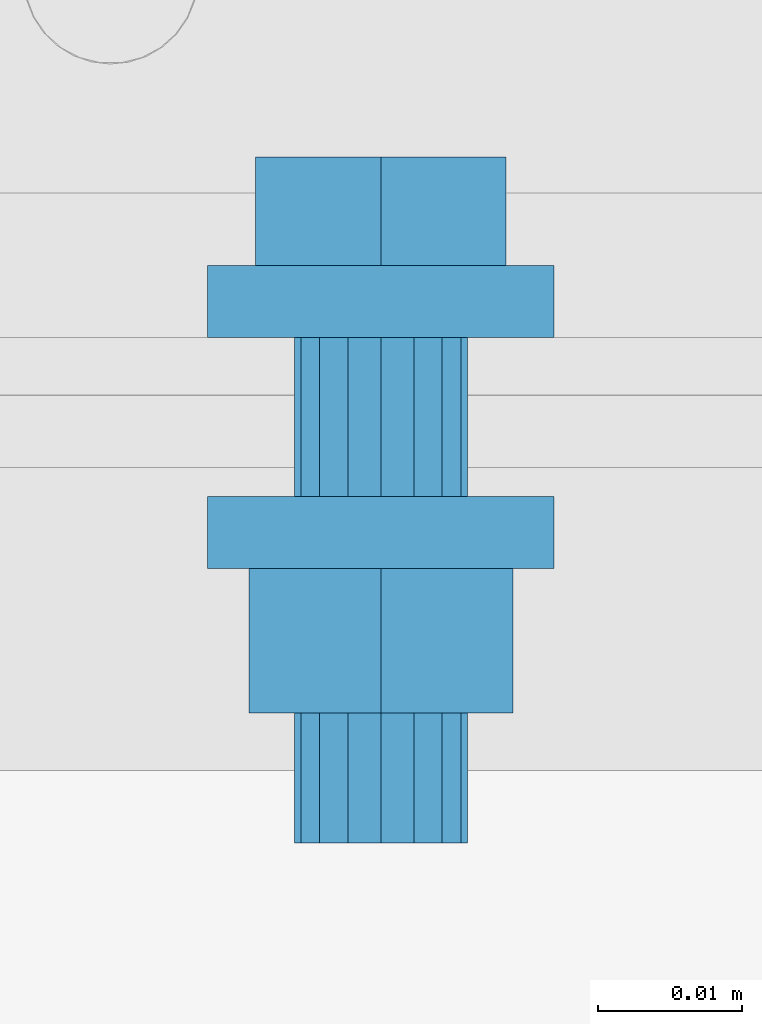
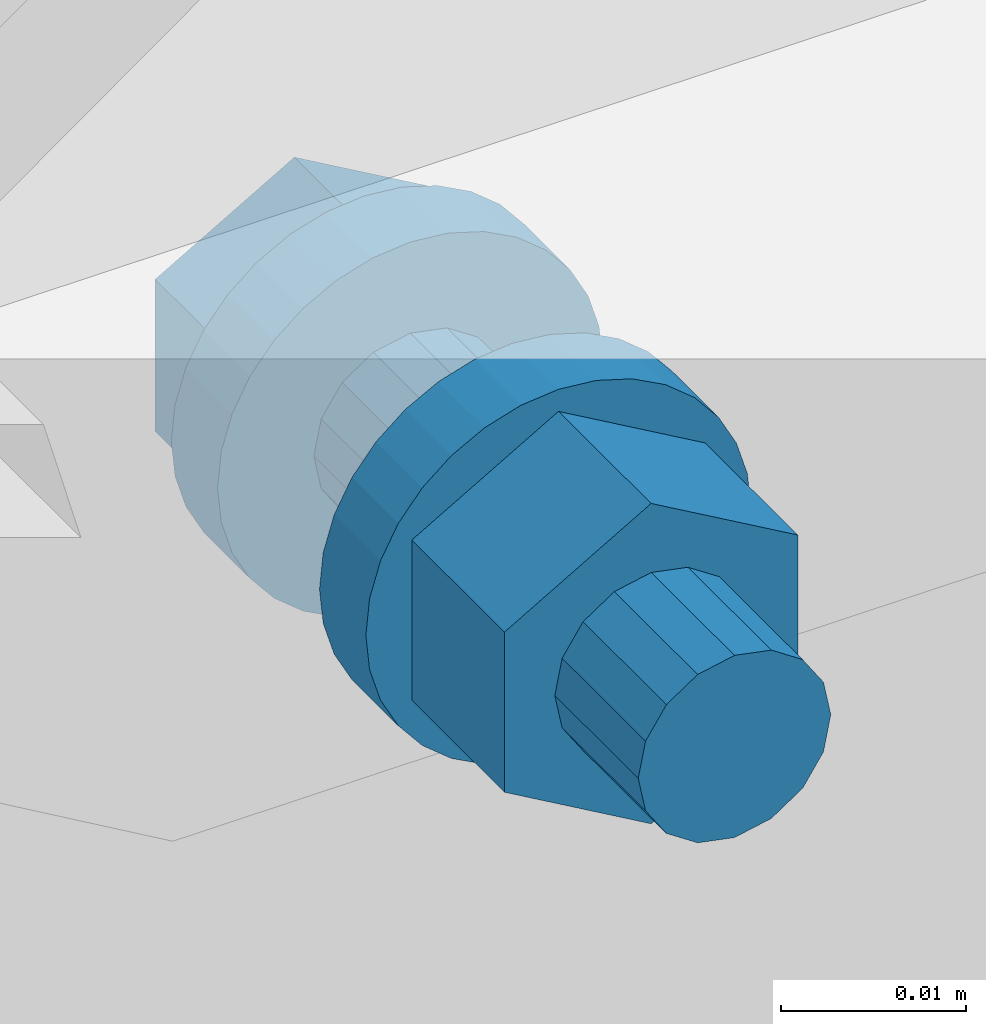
# One storey, part 77 of 116: 1 mechanical fastener.
"""IFC2X3 building model written with IfcOpenShell, lengths in millimetres."""

import ifcopenshell
import ifcopenshell.guid

model = None  # the IFC model being written
_history = None  # IfcOwnerHistory: only IFC2X3 demands one
_inside = {}  # id of a spatial element -> (the spatial element, [elements in it])
_under = {}  # id of a project, library or spatial element -> (it, [spatial elements below it])
_declared = {}  # id of a project -> (the project, [libraries it declares])
_typed = {}  # id of a type object -> (the type object, [elements of that type])
_made_of = {}  # id of a material, layer set ... -> (it, [elements and type objects made of it])


def new_model(schema):
    """Start an empty IFC model of exactly this schema.

    Asked for "IFC4X3", IfcOpenShell would pick the latest addendum, in which some entities
    have other attributes; the version numbers below select the first issue.
    IFC2X3 requires an IfcOwnerHistory on every rooted entity: one is made here for all.
    """
    global model, _history
    if schema == "IFC4X3":
        model = ifcopenshell.file(schema_version=(4, 3, 0, 0))
    else:
        model = ifcopenshell.file(schema=schema)
    _inside.clear()
    _under.clear()
    _declared.clear()
    _typed.clear()
    _made_of.clear()
    _history = None
    if model.schema == "IFC2X3":
        org = make("IfcOrganization", Name="unknown")
        user = make(
            "IfcPersonAndOrganization",
            ThePerson=make("IfcPerson", FamilyName="unknown"),
            TheOrganization=org,
        )
        app = make(
            "IfcApplication",
            ApplicationDeveloper=org,
            Version="unknown",
            ApplicationFullName="unknown",
            ApplicationIdentifier="unknown",
        )
        _history = make(
            "IfcOwnerHistory",
            OwningUser=user,
            OwningApplication=app,
            ChangeAction="ADDED",
            CreationDate=0,
        )
    return model


def make(cls, **values):
    """One entity of the class cls with the attributes given. An attribute that is None is left unset."""
    return model.create_entity(
        cls, **{name: value for name, value in values.items() if value is not None}
    )


def entity(cls, *values):
    """Any entity or typed value of the class cls, its attributes in the order of the schema. None: left unset."""
    e = model.create_entity(cls)
    for i, value in enumerate(values):
        if value is not None:
            e[i] = value
    return e


def rooted(cls, **values):
    """An entity with a GlobalId (a new one), such as an element, a storey or a relation."""
    return make(cls, GlobalId=ifcopenshell.guid.new(), OwnerHistory=_history, **values)


def si_unit(unit_type, name, prefix=None):
    """IfcSIUnit, for example si_unit("LENGTHUNIT", "METRE", prefix="MILLI")."""
    return make("IfcSIUnit", UnitType=unit_type, Prefix=prefix, Name=name)


def converted_unit(unit_type, name, factor, base, dimensions=None, offset=None):
    """IfcConversionBasedUnit, such as the inch: factor (a typed value) times the base unit."""
    return make(
        "IfcConversionBasedUnit"
        if offset is None
        else "IfcConversionBasedUnitWithOffset",
        ConversionOffset=offset,
        Dimensions=None
        if dimensions is None
        else entity("IfcDimensionalExponents", *dimensions),
        UnitType=unit_type,
        Name=name,
        ConversionFactor=make(
            "IfcMeasureWithUnit", ValueComponent=factor, UnitComponent=base
        ),
    )


def assignment(units):
    """IfcUnitAssignment: the units of a project."""
    return None if units is None else make("IfcUnitAssignment", Units=units)


def point(xyz):
    """IfcCartesianPoint."""
    return None if xyz is None else make("IfcCartesianPoint", Coordinates=xyz)


def direction(xyz):
    """IfcDirection."""
    return None if xyz is None else make("IfcDirection", DirectionRatios=xyz)


def frame(location, z_axis=None, x_axis=None):
    """IfcAxis2Placement3D, a coordinate frame: its origin and axes. An axis left out is left unset."""
    return make(
        "IfcAxis2Placement3D",
        Location=point(location),
        Axis=direction(z_axis),
        RefDirection=direction(x_axis),
    )


def origin_with_axes():
    """The frame at (0, 0, 0) with the z axis (0, 0, 1) and the x axis (1, 0, 0) written out."""
    return frame((0.0, 0.0, 0.0), z_axis=(0.0, 0.0, 1.0), x_axis=(1.0, 0.0, 0.0))


def place(relative_to, where):
    """IfcLocalPlacement: puts the frame where relative to a parent placement (None: the world)."""
    return make(
        "IfcLocalPlacement", PlacementRelTo=relative_to, RelativePlacement=where
    )


def context(
    kind, dimensions, precision=None, world=None, true_north=None, identifier=None
):
    """IfcGeometricRepresentationContext, for example the 3D "Model" context."""
    return make(
        "IfcGeometricRepresentationContext",
        ContextIdentifier=identifier,
        ContextType=kind,
        CoordinateSpaceDimension=dimensions,
        Precision=precision,
        WorldCoordinateSystem=world,
        TrueNorth=true_north,
    )


def project(units=None, contexts=None):
    """IfcProject with its units and contexts."""
    return rooted(
        "IfcProject",
        Name="project",
        RepresentationContexts=contexts,
        UnitsInContext=assignment(units),
    )


def spatial(cls, under=None, at=None, **own):
    """A site, building, storey or space (cls), placed at a placement, below another one or the project."""
    s = rooted(cls, ObjectPlacement=at, **own)
    if under is not None:
        _under.setdefault(under.id(), (under, []))[1].append(s)
    return s


def faces_of(points, faces, orient=None, outer=None):
    """IfcFace entities. A face is a list of loops; a loop is a list of indices into points, from 0.

    orient and outer hold one flag for each loop. By default every Orientation is true, the
    first loop of a face is its IfcFaceOuterBound and the others are IfcFaceBound.
    """
    made = []
    for i, loops in enumerate(faces):
        bounds = []
        for j, loop in enumerate(loops):
            is_outer = j == 0 if outer is None else outer[i][j]
            bounds.append(
                make(
                    "IfcFaceOuterBound" if is_outer else "IfcFaceBound",
                    Bound=make("IfcPolyLoop", Polygon=[points[k] for k in loop]),
                    Orientation=True if orient is None else orient[i][j],
                )
            )
        made.append(make("IfcFace", Bounds=bounds))
    return made


def faceted_brep(points, faces, orient=None, outer=None, voids=None):
    """IfcFacetedBrep: a solid bounded by flat faces; with voids (closed shells), ...WithVoids."""
    shared = [point(p) for p in points]
    hull = make("IfcClosedShell", CfsFaces=faces_of(shared, faces, orient, outer))
    if voids is None:
        return make("IfcFacetedBrep", Outer=hull)
    return make(
        "IfcFacetedBrepWithVoids",
        Outer=hull,
        Voids=[
            make(cls, CfsFaces=faces_of(shared, fs, o, b)) for cls, fs, o, b in voids
        ],
    )


def shape(context_of_items, identifier, shape_type, items):
    """IfcShapeRepresentation: the items that make up one representation, for example the "Body"."""
    return make(
        "IfcShapeRepresentation",
        ContextOfItems=context_of_items,
        RepresentationIdentifier=identifier,
        RepresentationType=shape_type,
        Items=items,
    )


def made_of(thing, what):
    """Note that an element or type object is made of a material, layer set ...; save() writes the relation."""
    if what is not None:
        _made_of.setdefault(what.id(), (what, []))[1].append(thing)
    return thing


def element(
    cls,
    number,
    at=None,
    inside=None,
    cuts=None,
    type_object=None,
    material=None,
    context=None,
    identifier="Body",
    shape_type=None,
    held_by="IfcProductDefinitionShape",
    body=None,
    shapes=None,
    **own,
):
    """One element of the class cls, such as IfcWall. Its Tag is "e" and its number.

    at: its placement. inside: the storey or other place that contains it. cuts: it is an
    opening in that element (IfcRelVoidsElement). A single representation is given by context,
    identifier, shape_type and body (its items); several are given by shapes. held_by: the class
    of the entity that holds the representations. save() writes the other relations.
    """
    e = rooted(cls, Tag="e%d" % number, ObjectPlacement=at, **own)
    if body is not None:
        shapes = [shape(context, identifier, shape_type, body)]
    if shapes is not None:
        e.Representation = make(held_by, Representations=shapes)
    if inside is not None:
        _inside.setdefault(inside.id(), (inside, []))[1].append(e)
    if cuts is not None:
        rooted(
            "IfcRelVoidsElement", RelatingBuildingElement=cuts, RelatedOpeningElement=e
        )
    if type_object is not None:
        _typed.setdefault(type_object.id(), (type_object, []))[1].append(e)
    return made_of(e, material)


def aggregate(whole, parts):
    """IfcRelAggregates: a whole, such as a stair, and the parts it consists of."""
    return rooted("IfcRelAggregates", RelatingObject=whole, RelatedObjects=parts)


def save(model, path):
    """Write the relations noted so far, then the file.

    IfcRelAggregates (storeys below a building ...), IfcRelContainedInSpatialStructure (elements
    in a storey), IfcRelDefinesByType, IfcRelAssociatesMaterial and IfcRelDeclares: one each for
    every whole, place, type object, material and project.
    """
    for whole, parts in _under.values():
        aggregate(whole, parts)
    for where, things in _inside.values():
        rooted(
            "IfcRelContainedInSpatialStructure",
            RelatedElements=things,
            RelatingStructure=where,
        )
    for kind, things in _typed.values():
        rooted("IfcRelDefinesByType", RelatedObjects=things, RelatingType=kind)
    for what, things in _made_of.values():
        rooted("IfcRelAssociatesMaterial", RelatedObjects=things, RelatingMaterial=what)
    for by, libraries in _declared.values():
        rooted("IfcRelDeclares", RelatingContext=by, RelatedDefinitions=libraries)
    model.write(path)


model = new_model("IFC2X3")

# Units and contexts
model_context = context("Model", 3, precision=1e-09, world=origin_with_axes())
ifc_project = project(units=[si_unit("LENGTHUNIT", "METRE", prefix="MILLI"), si_unit("AREAUNIT", "SQUARE_METRE"), si_unit("VOLUMEUNIT", "CUBIC_METRE"), converted_unit("PLANEANGLEUNIT", "DEGREE", entity("IfcPlaneAngleMeasure", 0.01745329), si_unit("PLANEANGLEUNIT", "RADIAN"), dimensions=[0, 0, 0, 0, 0, 0, 0])], contexts=[model_context])

# Site, building, storey
site_placement = place(None, origin_with_axes())
site = spatial("IfcSite", under=ifc_project, at=site_placement, Name="Site", CompositionType="ELEMENT")
building_placement = place(site_placement, origin_with_axes())
building = spatial("IfcBuilding", under=site, at=building_placement, Name="Struktur 1", CompositionType="ELEMENT")
storey_placement = place(building_placement, origin_with_axes())
storey = spatial("IfcBuildingStorey", under=building, at=storey_placement, Name="Default Storey", CompositionType="ELEMENT", Elevation=0.0)

# Mechanical fastener
mechanical_fastener_placement = place(None, origin_with_axes())
element("IfcMechanicalFastener", 1, at=mechanical_fastener_placement, inside=storey, ObjectType="-", NominalDiameter=12.0, NominalLength=40.0, context=model_context, shape_type="Brep", body=[
    faceted_brep([(60105.049134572, 10430.358883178, -1153.0), (60105.049134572, 10432.858883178, -1153.0), (60105.279711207, 10432.858883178, -1155.341083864), (60105.279711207, 10430.358883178, -1155.341083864), (60105.962580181, 10432.858883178, -1157.592201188), (60105.962580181, 10430.358883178, -1157.592201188), (60107.071499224, 10432.858883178, -1159.666842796), (60107.071499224, 10430.358883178, -1159.666842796), (60108.563853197, 10432.858883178, -1161.485281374), (60108.563853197, 10430.358883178, -1161.485281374), (60110.382291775, 10432.858883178, -1162.977635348), (60110.382291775, 10430.358883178, -1162.977635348), (60112.456933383, 10432.858883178, -1164.08655439), (60112.456933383, 10430.358883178, -1164.08655439), (60114.708050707, 10432.858883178, -1164.769423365), (60114.708050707, 10430.358883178, -1164.769423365), (60117.049134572, 10432.858883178, -1165.0), (60117.049134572, 10430.358883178, -1165.0), (60119.390218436, 10432.858883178, -1164.769423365), (60119.390218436, 10430.358883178, -1164.769423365), (60121.64133576, 10432.858883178, -1164.08655439), (60121.64133576, 10430.358883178, -1164.08655439), (60123.715977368, 10432.858883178, -1162.977635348), (60123.715977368, 10430.358883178, -1162.977635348), (60125.534415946, 10432.858883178, -1161.485281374), (60125.534415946, 10430.358883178, -1161.485281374), (60127.026769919, 10432.858883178, -1159.666842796), (60127.026769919, 10430.358883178, -1159.666842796), (60128.135688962, 10432.858883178, -1157.592201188), (60128.135688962, 10430.358883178, -1157.592201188), (60128.818557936, 10432.858883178, -1155.341083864), (60128.818557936, 10430.358883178, -1155.341083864), (60129.049134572, 10432.858883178, -1153.0), (60129.049134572, 10430.358883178, -1153.0), (60128.818557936, 10432.858883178, -1150.658916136), (60128.818557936, 10430.358883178, -1150.658916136), (60128.135688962, 10432.858883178, -1148.407798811), (60128.135688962, 10430.358883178, -1148.407798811), (60127.026769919, 10432.858883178, -1146.333157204), (60127.026769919, 10430.358883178, -1146.333157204), (60125.534415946, 10432.858883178, -1144.514718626), (60125.534415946, 10430.358883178, -1144.514718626), (60123.715977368, 10432.858883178, -1143.022364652), (60123.715977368, 10430.358883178, -1143.022364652), (60121.64133576, 10432.858883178, -1141.91344561), (60121.64133576, 10430.358883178, -1141.91344561), (60119.390218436, 10432.858883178, -1141.230576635), (60119.390218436, 10430.358883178, -1141.230576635), (60117.049134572, 10432.858883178, -1141.0), (60117.049134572, 10430.358883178, -1141.0), (60114.708050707, 10432.858883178, -1141.230576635), (60114.708050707, 10430.358883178, -1141.230576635), (60112.456933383, 10432.858883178, -1141.91344561), (60112.456933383, 10430.358883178, -1141.91344561), (60110.382291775, 10432.858883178, -1143.022364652), (60110.382291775, 10430.358883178, -1143.022364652), (60108.563853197, 10432.858883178, -1144.514718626), (60108.563853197, 10430.358883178, -1144.514718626), (60107.071499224, 10432.858883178, -1146.333157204), (60107.071499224, 10430.358883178, -1146.333157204), (60105.962580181, 10432.858883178, -1148.407798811), (60105.962580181, 10430.358883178, -1148.407798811), (60105.279711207, 10432.858883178, -1150.658916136), (60105.279711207, 10430.358883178, -1150.658916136)], [[[0, 1, 2, 3]], [[3, 2, 4, 5]], [[5, 4, 6, 7]], [[7, 6, 8, 9]], [[9, 8, 10, 11]], [[11, 10, 12, 13]], [[13, 12, 14, 15]], [[15, 14, 16, 17]], [[17, 16, 18, 19]], [[19, 18, 20, 21]], [[21, 20, 22, 23]], [[23, 22, 24, 25]], [[25, 24, 26, 27]], [[27, 26, 28, 29]], [[29, 28, 30, 31]], [[31, 30, 32, 33]], [[33, 32, 34, 35]], [[35, 34, 36, 37]], [[37, 36, 38, 39]], [[39, 38, 40, 41]], [[41, 40, 42, 43]], [[43, 42, 44, 45]], [[45, 44, 46, 47]], [[47, 46, 48, 49]], [[49, 48, 50, 51]], [[51, 50, 52, 53]], [[53, 52, 54, 55]], [[55, 54, 56, 57]], [[57, 56, 58, 59]], [[59, 58, 60, 61]], [[61, 60, 62, 63]], [[63, 62, 1, 0]], [[2, 1, 62, 60, 58, 56, 54, 52, 50, 48, 46, 44, 42, 40, 38, 36, 34, 32, 30, 28, 26, 24, 22, 20, 18, 16, 14, 12, 10, 8, 6, 4]], [[63, 0, 3, 5, 7, 9, 11, 13, 15, 17, 19, 21, 23, 25, 27, 29, 31, 33, 35, 37, 39, 41, 43, 45, 47, 49, 51, 53, 55, 57, 59, 61]]]),
    faceted_brep([(60105.049134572, 10432.858883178, -1153.0), (60105.049134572, 10435.358883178, -1153.0), (60105.279711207, 10435.358883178, -1155.341083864), (60105.279711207, 10432.858883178, -1155.341083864), (60105.962580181, 10435.358883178, -1157.592201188), (60105.962580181, 10432.858883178, -1157.592201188), (60107.071499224, 10435.358883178, -1159.666842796), (60107.071499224, 10432.858883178, -1159.666842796), (60108.563853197, 10435.358883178, -1161.485281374), (60108.563853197, 10432.858883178, -1161.485281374), (60110.382291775, 10435.358883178, -1162.977635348), (60110.382291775, 10432.858883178, -1162.977635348), (60112.456933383, 10435.358883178, -1164.08655439), (60112.456933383, 10432.858883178, -1164.08655439), (60114.708050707, 10435.358883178, -1164.769423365), (60114.708050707, 10432.858883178, -1164.769423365), (60117.049134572, 10435.358883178, -1165.0), (60117.049134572, 10432.858883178, -1165.0), (60119.390218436, 10435.358883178, -1164.769423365), (60119.390218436, 10432.858883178, -1164.769423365), (60121.64133576, 10435.358883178, -1164.08655439), (60121.64133576, 10432.858883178, -1164.08655439), (60123.715977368, 10435.358883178, -1162.977635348), (60123.715977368, 10432.858883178, -1162.977635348), (60125.534415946, 10435.358883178, -1161.485281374), (60125.534415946, 10432.858883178, -1161.485281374), (60127.026769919, 10435.358883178, -1159.666842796), (60127.026769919, 10432.858883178, -1159.666842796), (60128.135688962, 10435.358883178, -1157.592201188), (60128.135688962, 10432.858883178, -1157.592201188), (60128.818557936, 10435.358883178, -1155.341083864), (60128.818557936, 10432.858883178, -1155.341083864), (60129.049134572, 10435.358883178, -1153.0), (60129.049134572, 10432.858883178, -1153.0), (60128.818557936, 10435.358883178, -1150.658916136), (60128.818557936, 10432.858883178, -1150.658916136), (60128.135688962, 10435.358883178, -1148.407798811), (60128.135688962, 10432.858883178, -1148.407798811), (60127.026769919, 10435.358883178, -1146.333157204), (60127.026769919, 10432.858883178, -1146.333157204), (60125.534415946, 10435.358883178, -1144.514718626), (60125.534415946, 10432.858883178, -1144.514718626), (60123.715977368, 10435.358883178, -1143.022364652), (60123.715977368, 10432.858883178, -1143.022364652), (60121.64133576, 10435.358883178, -1141.91344561), (60121.64133576, 10432.858883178, -1141.91344561), (60119.390218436, 10435.358883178, -1141.230576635), (60119.390218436, 10432.858883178, -1141.230576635), (60117.049134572, 10435.358883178, -1141.0), (60117.049134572, 10432.858883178, -1141.0), (60114.708050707, 10435.358883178, -1141.230576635), (60114.708050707, 10432.858883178, -1141.230576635), (60112.456933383, 10435.358883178, -1141.91344561), (60112.456933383, 10432.858883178, -1141.91344561), (60110.382291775, 10435.358883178, -1143.022364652), (60110.382291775, 10432.858883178, -1143.022364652), (60108.563853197, 10435.358883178, -1144.514718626), (60108.563853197, 10432.858883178, -1144.514718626), (60107.071499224, 10435.358883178, -1146.333157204), (60107.071499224, 10432.858883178, -1146.333157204), (60105.962580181, 10435.358883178, -1148.407798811), (60105.962580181, 10432.858883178, -1148.407798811), (60105.279711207, 10435.358883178, -1150.658916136), (60105.279711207, 10432.858883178, -1150.658916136)], [[[0, 1, 2, 3]], [[3, 2, 4, 5]], [[5, 4, 6, 7]], [[7, 6, 8, 9]], [[9, 8, 10, 11]], [[11, 10, 12, 13]], [[13, 12, 14, 15]], [[15, 14, 16, 17]], [[17, 16, 18, 19]], [[19, 18, 20, 21]], [[21, 20, 22, 23]], [[23, 22, 24, 25]], [[25, 24, 26, 27]], [[27, 26, 28, 29]], [[29, 28, 30, 31]], [[31, 30, 32, 33]], [[33, 32, 34, 35]], [[35, 34, 36, 37]], [[37, 36, 38, 39]], [[39, 38, 40, 41]], [[41, 40, 42, 43]], [[43, 42, 44, 45]], [[45, 44, 46, 47]], [[47, 46, 48, 49]], [[49, 48, 50, 51]], [[51, 50, 52, 53]], [[53, 52, 54, 55]], [[55, 54, 56, 57]], [[57, 56, 58, 59]], [[59, 58, 60, 61]], [[61, 60, 62, 63]], [[63, 62, 1, 0]], [[2, 1, 62, 60, 58, 56, 54, 52, 50, 48, 46, 44, 42, 40, 38, 36, 34, 32, 30, 28, 26, 24, 22, 20, 18, 16, 14, 12, 10, 8, 6, 4]], [[63, 0, 3, 5, 7, 9, 11, 13, 15, 17, 19, 21, 23, 25, 27, 29, 31, 33, 35, 37, 39, 41, 43, 45, 47, 49, 51, 53, 55, 57, 59, 61]]]),
    faceted_brep([(60125.722378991, 10442.858883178, -1158.0075), (60125.722378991, 10435.358883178, -1158.0075), (60117.049134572, 10435.358883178, -1163.015), (60117.049134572, 10442.858883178, -1163.015), (60108.375890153, 10435.358883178, -1158.0075), (60108.375890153, 10442.858883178, -1158.0075), (60108.375890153, 10435.358883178, -1147.9925), (60108.375890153, 10442.858883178, -1147.9925), (60117.049134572, 10435.358883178, -1142.985), (60117.049134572, 10442.858883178, -1142.985), (60125.722378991, 10435.358883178, -1147.9925), (60125.722378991, 10442.858883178, -1147.9925)], [[[0, 1, 2, 3]], [[3, 2, 4, 5]], [[5, 4, 6, 7]], [[7, 6, 8, 9]], [[9, 8, 10, 11]], [[11, 10, 1, 0]], [[3, 5, 7, 9, 11, 0]], [[2, 1, 10, 8, 6, 4]]]),
    faceted_brep([(60111.049134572, 10419.358883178, -1153.0), (60111.049134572, 10430.358883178, -1153.0), (60111.505857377, 10430.358883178, -1155.296100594), (60111.505857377, 10419.358883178, -1155.296100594), (60112.806493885, 10430.358883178, -1157.242640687), (60112.806493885, 10419.358883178, -1157.242640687), (60114.753033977, 10430.358883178, -1158.543277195), (60114.753033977, 10419.358883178, -1158.543277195), (60117.049134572, 10430.358883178, -1159.0), (60117.049134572, 10419.358883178, -1159.0), (60119.345235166, 10430.358883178, -1158.543277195), (60119.345235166, 10419.358883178, -1158.543277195), (60121.291775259, 10430.358883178, -1157.242640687), (60121.291775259, 10419.358883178, -1157.242640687), (60122.592411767, 10430.358883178, -1155.296100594), (60122.592411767, 10419.358883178, -1155.296100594), (60123.049134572, 10430.358883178, -1153.0), (60123.049134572, 10419.358883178, -1153.0), (60122.592411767, 10430.358883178, -1150.703899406), (60122.592411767, 10419.358883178, -1150.703899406), (60121.291775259, 10430.358883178, -1148.757359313), (60121.291775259, 10419.358883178, -1148.757359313), (60119.345235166, 10430.358883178, -1147.456722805), (60119.345235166, 10419.358883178, -1147.456722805), (60117.049134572, 10430.358883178, -1147.0), (60117.049134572, 10419.358883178, -1147.0), (60114.753033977, 10430.358883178, -1147.456722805), (60114.753033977, 10419.358883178, -1147.456722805), (60112.806493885, 10430.358883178, -1148.757359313), (60112.806493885, 10419.358883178, -1148.757359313), (60111.505857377, 10430.358883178, -1150.703899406), (60111.505857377, 10419.358883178, -1150.703899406)], [[[0, 1, 2, 3]], [[3, 2, 4, 5]], [[5, 4, 6, 7]], [[7, 6, 8, 9]], [[9, 8, 10, 11]], [[11, 10, 12, 13]], [[13, 12, 14, 15]], [[15, 14, 16, 17]], [[17, 16, 18, 19]], [[19, 18, 20, 21]], [[21, 20, 22, 23]], [[23, 22, 24, 25]], [[25, 24, 26, 27]], [[27, 26, 28, 29]], [[29, 28, 30, 31]], [[31, 30, 1, 0]], [[2, 1, 30, 28, 26, 24, 22, 20, 18, 16, 14, 12, 10, 8, 6, 4]], [[31, 0, 3, 5, 7, 9, 11, 13, 15, 17, 19, 21, 23, 25, 27, 29]]]),
    faceted_brep([(60105.049134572, 10416.858883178, -1153.0), (60105.049134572, 10419.358883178, -1153.0), (60105.279711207, 10419.358883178, -1155.341083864), (60105.279711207, 10416.858883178, -1155.341083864), (60105.962580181, 10419.358883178, -1157.592201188), (60105.962580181, 10416.858883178, -1157.592201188), (60107.071499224, 10419.358883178, -1159.666842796), (60107.071499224, 10416.858883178, -1159.666842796), (60108.563853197, 10419.358883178, -1161.485281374), (60108.563853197, 10416.858883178, -1161.485281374), (60110.382291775, 10419.358883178, -1162.977635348), (60110.382291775, 10416.858883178, -1162.977635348), (60112.456933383, 10419.358883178, -1164.08655439), (60112.456933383, 10416.858883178, -1164.08655439), (60114.708050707, 10419.358883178, -1164.769423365), (60114.708050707, 10416.858883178, -1164.769423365), (60117.049134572, 10419.358883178, -1165.0), (60117.049134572, 10416.858883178, -1165.0), (60119.390218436, 10419.358883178, -1164.769423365), (60119.390218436, 10416.858883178, -1164.769423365), (60121.64133576, 10419.358883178, -1164.08655439), (60121.64133576, 10416.858883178, -1164.08655439), (60123.715977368, 10419.358883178, -1162.977635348), (60123.715977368, 10416.858883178, -1162.977635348), (60125.534415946, 10419.358883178, -1161.485281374), (60125.534415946, 10416.858883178, -1161.485281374), (60127.026769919, 10419.358883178, -1159.666842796), (60127.026769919, 10416.858883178, -1159.666842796), (60128.135688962, 10419.358883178, -1157.592201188), (60128.135688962, 10416.858883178, -1157.592201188), (60128.818557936, 10419.358883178, -1155.341083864), (60128.818557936, 10416.858883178, -1155.341083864), (60129.049134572, 10419.358883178, -1153.0), (60129.049134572, 10416.858883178, -1153.0), (60128.818557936, 10419.358883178, -1150.658916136), (60128.818557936, 10416.858883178, -1150.658916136), (60128.135688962, 10419.358883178, -1148.407798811), (60128.135688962, 10416.858883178, -1148.407798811), (60127.026769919, 10419.358883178, -1146.333157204), (60127.026769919, 10416.858883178, -1146.333157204), (60125.534415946, 10419.358883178, -1144.514718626), (60125.534415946, 10416.858883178, -1144.514718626), (60123.715977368, 10419.358883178, -1143.022364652), (60123.715977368, 10416.858883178, -1143.022364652), (60121.64133576, 10419.358883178, -1141.91344561), (60121.64133576, 10416.858883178, -1141.91344561), (60119.390218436, 10419.358883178, -1141.230576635), (60119.390218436, 10416.858883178, -1141.230576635), (60117.049134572, 10419.358883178, -1141.0), (60117.049134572, 10416.858883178, -1141.0), (60114.708050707, 10419.358883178, -1141.230576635), (60114.708050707, 10416.858883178, -1141.230576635), (60112.456933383, 10419.358883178, -1141.91344561), (60112.456933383, 10416.858883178, -1141.91344561), (60110.382291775, 10419.358883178, -1143.022364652), (60110.382291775, 10416.858883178, -1143.022364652), (60108.563853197, 10419.358883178, -1144.514718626), (60108.563853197, 10416.858883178, -1144.514718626), (60107.071499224, 10419.358883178, -1146.333157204), (60107.071499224, 10416.858883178, -1146.333157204), (60105.962580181, 10419.358883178, -1148.407798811), (60105.962580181, 10416.858883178, -1148.407798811), (60105.279711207, 10419.358883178, -1150.658916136), (60105.279711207, 10416.858883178, -1150.658916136)], [[[0, 1, 2, 3]], [[3, 2, 4, 5]], [[5, 4, 6, 7]], [[7, 6, 8, 9]], [[9, 8, 10, 11]], [[11, 10, 12, 13]], [[13, 12, 14, 15]], [[15, 14, 16, 17]], [[17, 16, 18, 19]], [[19, 18, 20, 21]], [[21, 20, 22, 23]], [[23, 22, 24, 25]], [[25, 24, 26, 27]], [[27, 26, 28, 29]], [[29, 28, 30, 31]], [[31, 30, 32, 33]], [[33, 32, 34, 35]], [[35, 34, 36, 37]], [[37, 36, 38, 39]], [[39, 38, 40, 41]], [[41, 40, 42, 43]], [[43, 42, 44, 45]], [[45, 44, 46, 47]], [[47, 46, 48, 49]], [[49, 48, 50, 51]], [[51, 50, 52, 53]], [[53, 52, 54, 55]], [[55, 54, 56, 57]], [[57, 56, 58, 59]], [[59, 58, 60, 61]], [[61, 60, 62, 63]], [[63, 62, 1, 0]], [[2, 1, 62, 60, 58, 56, 54, 52, 50, 48, 46, 44, 42, 40, 38, 36, 34, 32, 30, 28, 26, 24, 22, 20, 18, 16, 14, 12, 10, 8, 6, 4]], [[63, 0, 3, 5, 7, 9, 11, 13, 15, 17, 19, 21, 23, 25, 27, 29, 31, 33, 35, 37, 39, 41, 43, 45, 47, 49, 51, 53, 55, 57, 59, 61]]]),
    faceted_brep([(60105.049134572, 10414.358883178, -1153.0), (60105.049134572, 10416.858883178, -1153.0), (60105.279711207, 10416.858883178, -1155.341083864), (60105.279711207, 10414.358883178, -1155.341083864), (60105.962580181, 10416.858883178, -1157.592201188), (60105.962580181, 10414.358883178, -1157.592201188), (60107.071499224, 10416.858883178, -1159.666842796), (60107.071499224, 10414.358883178, -1159.666842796), (60108.563853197, 10416.858883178, -1161.485281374), (60108.563853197, 10414.358883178, -1161.485281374), (60110.382291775, 10416.858883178, -1162.977635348), (60110.382291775, 10414.358883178, -1162.977635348), (60112.456933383, 10416.858883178, -1164.08655439), (60112.456933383, 10414.358883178, -1164.08655439), (60114.708050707, 10416.858883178, -1164.769423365), (60114.708050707, 10414.358883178, -1164.769423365), (60117.049134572, 10416.858883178, -1165.0), (60117.049134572, 10414.358883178, -1165.0), (60119.390218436, 10416.858883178, -1164.769423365), (60119.390218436, 10414.358883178, -1164.769423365), (60121.64133576, 10416.858883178, -1164.08655439), (60121.64133576, 10414.358883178, -1164.08655439), (60123.715977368, 10416.858883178, -1162.977635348), (60123.715977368, 10414.358883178, -1162.977635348), (60125.534415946, 10416.858883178, -1161.485281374), (60125.534415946, 10414.358883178, -1161.485281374), (60127.026769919, 10416.858883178, -1159.666842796), (60127.026769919, 10414.358883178, -1159.666842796), (60128.135688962, 10416.858883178, -1157.592201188), (60128.135688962, 10414.358883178, -1157.592201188), (60128.818557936, 10416.858883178, -1155.341083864), (60128.818557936, 10414.358883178, -1155.341083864), (60129.049134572, 10416.858883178, -1153.0), (60129.049134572, 10414.358883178, -1153.0), (60128.818557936, 10416.858883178, -1150.658916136), (60128.818557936, 10414.358883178, -1150.658916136), (60128.135688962, 10416.858883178, -1148.407798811), (60128.135688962, 10414.358883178, -1148.407798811), (60127.026769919, 10416.858883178, -1146.333157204), (60127.026769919, 10414.358883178, -1146.333157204), (60125.534415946, 10416.858883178, -1144.514718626), (60125.534415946, 10414.358883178, -1144.514718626), (60123.715977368, 10416.858883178, -1143.022364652), (60123.715977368, 10414.358883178, -1143.022364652), (60121.64133576, 10416.858883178, -1141.91344561), (60121.64133576, 10414.358883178, -1141.91344561), (60119.390218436, 10416.858883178, -1141.230576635), (60119.390218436, 10414.358883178, -1141.230576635), (60117.049134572, 10416.858883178, -1141.0), (60117.049134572, 10414.358883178, -1141.0), (60114.708050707, 10416.858883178, -1141.230576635), (60114.708050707, 10414.358883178, -1141.230576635), (60112.456933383, 10416.858883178, -1141.91344561), (60112.456933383, 10414.358883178, -1141.91344561), (60110.382291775, 10416.858883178, -1143.022364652), (60110.382291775, 10414.358883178, -1143.022364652), (60108.563853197, 10416.858883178, -1144.514718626), (60108.563853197, 10414.358883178, -1144.514718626), (60107.071499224, 10416.858883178, -1146.333157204), (60107.071499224, 10414.358883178, -1146.333157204), (60105.962580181, 10416.858883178, -1148.407798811), (60105.962580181, 10414.358883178, -1148.407798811), (60105.279711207, 10416.858883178, -1150.658916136), (60105.279711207, 10414.358883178, -1150.658916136)], [[[0, 1, 2, 3]], [[3, 2, 4, 5]], [[5, 4, 6, 7]], [[7, 6, 8, 9]], [[9, 8, 10, 11]], [[11, 10, 12, 13]], [[13, 12, 14, 15]], [[15, 14, 16, 17]], [[17, 16, 18, 19]], [[19, 18, 20, 21]], [[21, 20, 22, 23]], [[23, 22, 24, 25]], [[25, 24, 26, 27]], [[27, 26, 28, 29]], [[29, 28, 30, 31]], [[31, 30, 32, 33]], [[33, 32, 34, 35]], [[35, 34, 36, 37]], [[37, 36, 38, 39]], [[39, 38, 40, 41]], [[41, 40, 42, 43]], [[43, 42, 44, 45]], [[45, 44, 46, 47]], [[47, 46, 48, 49]], [[49, 48, 50, 51]], [[51, 50, 52, 53]], [[53, 52, 54, 55]], [[55, 54, 56, 57]], [[57, 56, 58, 59]], [[59, 58, 60, 61]], [[61, 60, 62, 63]], [[63, 62, 1, 0]], [[2, 1, 62, 60, 58, 56, 54, 52, 50, 48, 46, 44, 42, 40, 38, 36, 34, 32, 30, 28, 26, 24, 22, 20, 18, 16, 14, 12, 10, 8, 6, 4]], [[63, 0, 3, 5, 7, 9, 11, 13, 15, 17, 19, 21, 23, 25, 27, 29, 31, 33, 35, 37, 39, 41, 43, 45, 47, 49, 51, 53, 55, 57, 59, 61]]]),
    faceted_brep([(60126.185702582, 10414.358883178, -1158.275), (60126.185702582, 10404.358883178, -1158.275), (60117.049134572, 10404.358883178, -1163.55), (60117.049134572, 10414.358883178, -1163.55), (60107.912566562, 10404.358883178, -1158.275), (60107.912566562, 10414.358883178, -1158.275), (60107.912566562, 10404.358883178, -1147.725), (60107.912566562, 10414.358883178, -1147.725), (60117.049134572, 10404.358883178, -1142.45), (60117.049134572, 10414.358883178, -1142.45), (60126.185702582, 10404.358883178, -1147.725), (60126.185702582, 10414.358883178, -1147.725)], [[[0, 1, 2, 3]], [[3, 2, 4, 5]], [[5, 4, 6, 7]], [[7, 6, 8, 9]], [[9, 8, 10, 11]], [[11, 10, 1, 0]], [[3, 5, 7, 9, 11, 0]], [[2, 1, 10, 8, 6, 4]]]),
    faceted_brep([(60111.049134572, 10395.358883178, -1153.0), (60111.049134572, 10404.358883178, -1153.0), (60111.505857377, 10404.358883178, -1155.296100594), (60111.505857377, 10395.358883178, -1155.296100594), (60112.806493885, 10404.358883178, -1157.242640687), (60112.806493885, 10395.358883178, -1157.242640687), (60114.753033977, 10404.358883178, -1158.543277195), (60114.753033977, 10395.358883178, -1158.543277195), (60117.049134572, 10404.358883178, -1159.0), (60117.049134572, 10395.358883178, -1159.0), (60119.345235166, 10404.358883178, -1158.543277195), (60119.345235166, 10395.358883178, -1158.543277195), (60121.291775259, 10404.358883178, -1157.242640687), (60121.291775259, 10395.358883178, -1157.242640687), (60122.592411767, 10404.358883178, -1155.296100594), (60122.592411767, 10395.358883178, -1155.296100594), (60123.049134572, 10404.358883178, -1153.0), (60123.049134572, 10395.358883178, -1153.0), (60122.592411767, 10404.358883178, -1150.703899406), (60122.592411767, 10395.358883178, -1150.703899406), (60121.291775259, 10404.358883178, -1148.757359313), (60121.291775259, 10395.358883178, -1148.757359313), (60119.345235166, 10404.358883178, -1147.456722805), (60119.345235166, 10395.358883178, -1147.456722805), (60117.049134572, 10404.358883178, -1147.0), (60117.049134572, 10395.358883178, -1147.0), (60114.753033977, 10404.358883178, -1147.456722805), (60114.753033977, 10395.358883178, -1147.456722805), (60112.806493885, 10404.358883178, -1148.757359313), (60112.806493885, 10395.358883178, -1148.757359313), (60111.505857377, 10404.358883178, -1150.703899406), (60111.505857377, 10395.358883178, -1150.703899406)], [[[0, 1, 2, 3]], [[3, 2, 4, 5]], [[5, 4, 6, 7]], [[7, 6, 8, 9]], [[9, 8, 10, 11]], [[11, 10, 12, 13]], [[13, 12, 14, 15]], [[15, 14, 16, 17]], [[17, 16, 18, 19]], [[19, 18, 20, 21]], [[21, 20, 22, 23]], [[23, 22, 24, 25]], [[25, 24, 26, 27]], [[27, 26, 28, 29]], [[29, 28, 30, 31]], [[31, 30, 1, 0]], [[2, 1, 30, 28, 26, 24, 22, 20, 18, 16, 14, 12, 10, 8, 6, 4]], [[31, 0, 3, 5, 7, 9, 11, 13, 15, 17, 19, 21, 23, 25, 27, 29]]]),
])

save(model, "model.ifc")
